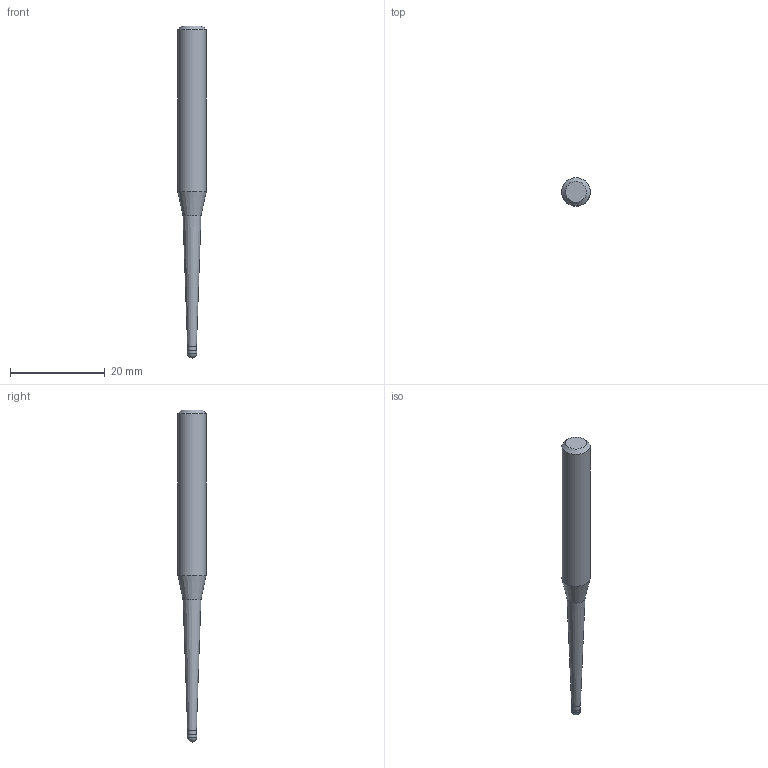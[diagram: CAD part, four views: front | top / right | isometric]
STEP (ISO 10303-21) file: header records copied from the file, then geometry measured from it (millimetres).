
FILE_DESCRIPTION((''),'2;1');
FILE_NAME('C:\Users\nsx150\AppData\Local\Temp\Mastercam 2021\E0ENTZRV18\TEMP.step','2021-09-02T09:57:05',(''),(''),'STEP Write','Mastercam 2021 ... CNC Software, Inc.','');
FILE_SCHEMA(('AUTOMOTIVE_DESIGN'));
Length unit declared in the file: millimetre
Products named in the file (1): None
Bounding box: 6 x 6 x 70 mm (x, y, z)
Volume: 1266.5 mm3; surface area: 1023.6 mm2
Topology: 2 solids, 2 shells, 10 faces, 16 edges, 9 vertices
Faces by surface type: plane 3, cylinder 3, cone 3, sphere 1
Full cylindrical faces by diameter (mm): 1.875 x1, 2 x1, 6 x1
Entity records: 232 total; most frequent: DIRECTION 40, CARTESIAN_POINT 28, AXIS2_PLACEMENT_3D 20, ORIENTED_EDGE 16, EDGE_LOOP 16, STYLED_ITEM 13, ADVANCED_FACE 10, FACE_BOUND 9
